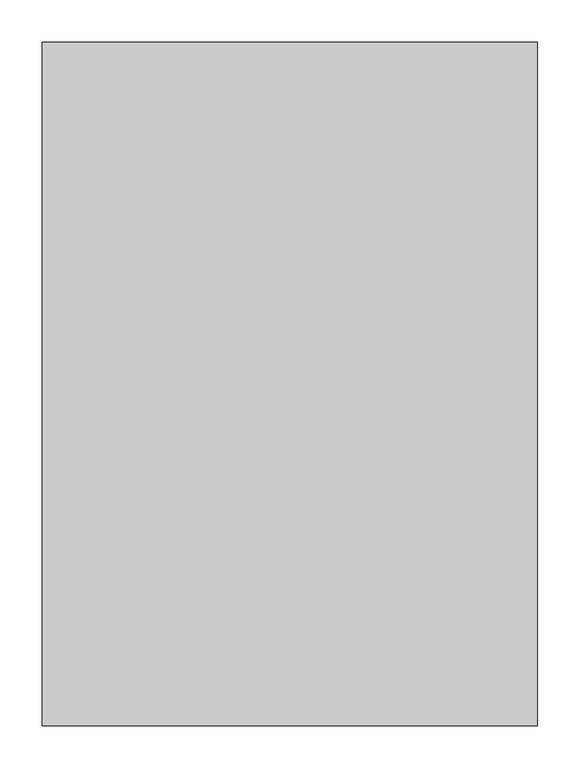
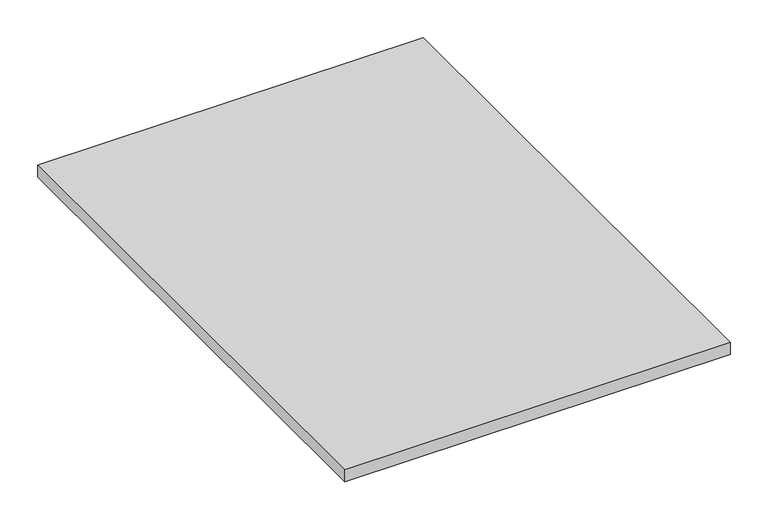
"""IFC4 building model written with IfcOpenShell, lengths in millimetres: proxy geometry, FOUNDATION^STANDARD CREDENZA_WEBSITE DETAIL-LEFT END DOOR."""

from ifc_helpers import new_model, si_unit, frame, origin, place, context, project, spatial, polyline, outline, extrude, source, transform, mapped, element, save


def generic_models_589d0d5f(model_context):
    return source(origin(), model_context, "Body", "SweptSolid", [
        extrude(outline(polyline([(40.48125, 38.1), (40.48125, 848.51875), (628.0546875, 848.51875), (628.0546875, 38.1), (40.48125, 38.1)])), frame((0.0, 0.0, 615.95), z_axis=(0.0, 0.0, 1.0), x_axis=(1.0, 0.0, 0.0)), (0.0, 0.0, 1.0), 19.05),
    ])


if __name__ == "__main__":
    model = new_model("IFC4")
    model_context = context("Model", 3, world=origin())
    ifc_project = project(units=[si_unit("LENGTHUNIT", "METRE", prefix="MILLI")], contexts=[model_context])
    site = spatial("IfcSite", under=ifc_project)
    building = spatial("IfcBuilding", under=site)
    placement = place(None, origin())
    generic_models_shape = generic_models_589d0d5f(model_context)
    element("IfcBuildingElementProxy", 1, Name="FOUNDATION^STANDARD CREDENZA_WEBSITE DETAIL-LEFT END DOOR", ObjectType="FOUNDATION^STANDARD CREDENZA_WEBSITE DETAIL-LEFT END DOOR", at=placement, inside=building, context=model_context, shape_type="MappedRepresentation", body=[
        mapped(generic_models_shape, transform((0.0, 0.0, 0.0), x_axis=(1.0, 0.0, 0.0), y_axis=(0.0, 1.0, 0.0), z_axis=(0.0, 0.0, 1.0))),
    ])
    save(model, "model.ifc")
